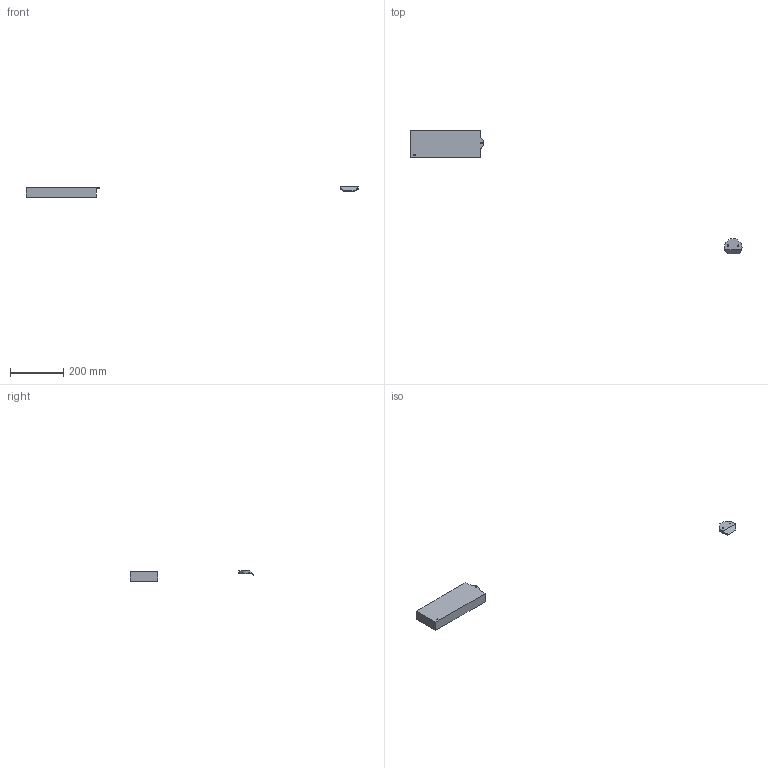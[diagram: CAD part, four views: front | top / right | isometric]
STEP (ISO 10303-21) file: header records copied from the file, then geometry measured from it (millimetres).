
FILE_DESCRIPTION( ( '' ), '1' );
FILE_NAME( 'C:/Users/dhek/Desktop/New folder/C_6/LegaDrive/9190608.stp', '2018-02-28T05:18:23', ( '' ), ( '' ), ' ', ' ', ' ' );
FILE_SCHEMA( ( 'CONFIG_CONTROL_DESIGN' ) );
Length unit declared in the file: millimetre
Products named in the file (2): 1; 2
Bounding box: 1247.54 x 464.48 x 40.5 mm (x, y, z)
Volume: 1049304 mm3; surface area: 91775.4 mm2
Topology: 2 solids, 2 shells, 33 faces, 87 edges, 58 vertices
Faces by surface type: cylinder 20, plane 13
Entity records: 1151 total; most frequent: DIRECTION 203, CARTESIAN_POINT 180, ORIENTED_EDGE 174, EDGE_CURVE 87, AXIS2_PLACEMENT_3D 81, VERTEX_POINT 58, EDGE_LOOP 41, LINE 41
